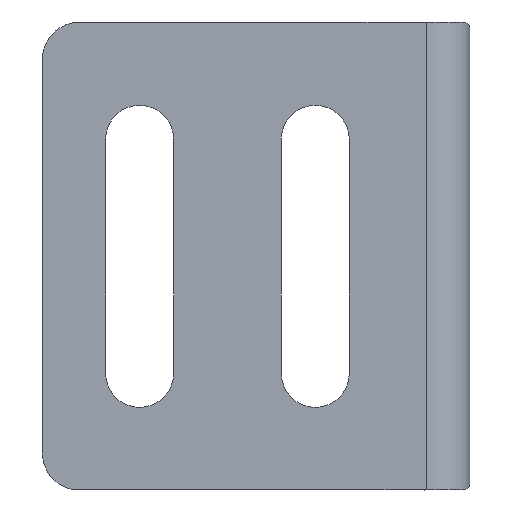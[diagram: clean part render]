
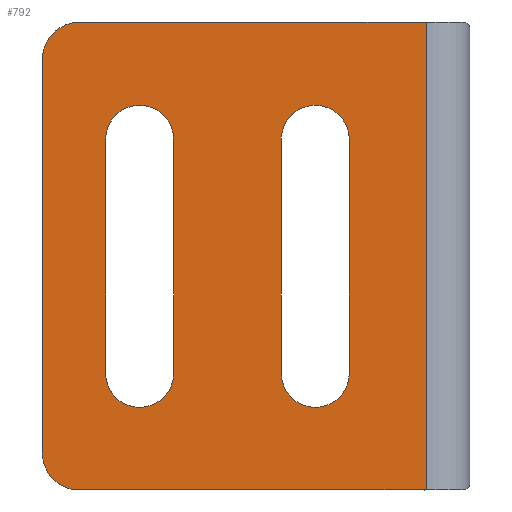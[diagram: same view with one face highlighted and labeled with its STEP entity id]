
A CAD part, front view. The second image highlights one B-rep face of the part: STEP entity #792.
In plain terms, the highlighted planar face has unit normal (0, -1, 0).
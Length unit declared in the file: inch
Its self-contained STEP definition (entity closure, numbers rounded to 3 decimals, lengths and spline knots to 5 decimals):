
#18 = VERTEX_POINT ( 'NONE', #842 ) ;
#20 = EDGE_CURVE ( 'NONE', #18, #735, #868, .T. ) ;
#25 = VERTEX_POINT ( 'NONE', #692 ) ;
#29 = EDGE_CURVE ( 'NONE', #736, #562, #691, .T. ) ;
#36 = VERTEX_POINT ( 'NONE', #687 ) ;
#44 = EDGE_CURVE ( 'NONE', #644, #736, #681, .T. ) ;
#49 = VERTEX_POINT ( 'NONE', #1284 ) ;
#55 = EDGE_CURVE ( 'NONE', #735, #49, #1198, .T. ) ;
#60 = VERTEX_POINT ( 'NONE', #1189 ) ;
#96 = CARTESIAN_POINT ( 'NONE',  ( 2.93886, -1.05, 1.12392 ) ) ;
#101 = CARTESIAN_POINT ( 'NONE',  ( 2.72086, -1.05, 1.12392 ) ) ;
#364 = DIRECTION ( 'NONE',  ( -1., 0., 0. ) ) ;
#365 = DIRECTION ( 'NONE',  ( 0., -1., 0. ) ) ;
#366 = CARTESIAN_POINT ( 'NONE',  ( 2.82986, -1.05, 1.12392 ) ) ;
#367 = AXIS2_PLACEMENT_3D ( 'NONE', #366, #365, #364 ) ;
#368 = CIRCLE ( 'NONE', #367, 0.109 ) ;
#395 = CARTESIAN_POINT ( 'NONE',  ( 2.72086, -1.05, 0.37392 ) ) ;
#396 = DIRECTION ( 'NONE',  ( 0., 0., -1. ) ) ;
#397 = VECTOR ( 'NONE', #396, 39.37008 ) ;
#398 = CARTESIAN_POINT ( 'NONE',  ( 2.72086, -1.05, 1.5 ) ) ;
#399 = LINE ( 'NONE', #398, #397 ) ;
#451 = CARTESIAN_POINT ( 'NONE',  ( 2.05879, -1.05, 0. ) ) ;
#452 = DIRECTION ( 'NONE',  ( -1., 0., 0. ) ) ;
#453 = VECTOR ( 'NONE', #452, 39.37008 ) ;
#454 = CARTESIAN_POINT ( 'NONE',  ( 3.18486, -1.05, 0. ) ) ;
#455 = LINE ( 'NONE', #454, #453 ) ;
#456 = DIRECTION ( 'NONE',  ( 0., 0., -1. ) ) ;
#457 = VECTOR ( 'NONE', #456, 39.37008 ) ;
#458 = CARTESIAN_POINT ( 'NONE',  ( 3.18486, -1.05, 1.5 ) ) ;
#459 = LINE ( 'NONE', #458, #457 ) ;
#479 = DIRECTION ( 'NONE',  ( 1., 0., 0. ) ) ;
#480 = VECTOR ( 'NONE', #479, 39.37008 ) ;
#481 = CARTESIAN_POINT ( 'NONE',  ( 3.18486, -1.05, 1.5 ) ) ;
#487 = LINE ( 'NONE', #481, #480 ) ;
#558 = VERTEX_POINT ( 'NONE', #101 ) ;
#562 = VERTEX_POINT ( 'NONE', #96 ) ;
#638 = EDGE_CURVE ( 'NONE', #562, #558, #368, .T. ) ;
#643 = EDGE_CURVE ( 'NONE', #558, #644, #399, .T. ) ;
#644 = VERTEX_POINT ( 'NONE', #395 ) ;
#669 = EDGE_CURVE ( 'NONE', #806, #60, #459, .T. ) ;
#677 = DIRECTION ( 'NONE',  ( -1., 0., 0. ) ) ;
#678 = DIRECTION ( 'NONE',  ( 0., -1., 0. ) ) ;
#679 = CARTESIAN_POINT ( 'NONE',  ( 2.82986, -1.05, 0.37392 ) ) ;
#680 = AXIS2_PLACEMENT_3D ( 'NONE', #679, #678, #677 ) ;
#681 = CIRCLE ( 'NONE', #680, 0.109 ) ;
#687 = CARTESIAN_POINT ( 'NONE',  ( 2.15786, -1.05, 1.12392 ) ) ;
#688 = DIRECTION ( 'NONE',  ( 0., 0., 1. ) ) ;
#689 = VECTOR ( 'NONE', #688, 39.37008 ) ;
#690 = CARTESIAN_POINT ( 'NONE',  ( 2.93886, -1.05, 1.5 ) ) ;
#691 = LINE ( 'NONE', #690, #689 ) ;
#692 = CARTESIAN_POINT ( 'NONE',  ( 2.07513, -1.05, 1.5 ) ) ;
#701 = DIRECTION ( 'NONE',  ( -1., 0., 0. ) ) ;
#702 = DIRECTION ( 'NONE',  ( 0., -1., 0. ) ) ;
#716 = EDGE_CURVE ( 'NONE', #60, #717, #455, .T. ) ;
#717 = VERTEX_POINT ( 'NONE', #451 ) ;
#724 = EDGE_CURVE ( 'NONE', #25, #806, #487, .T. ) ;
#735 = VERTEX_POINT ( 'NONE', #937 ) ;
#736 = VERTEX_POINT ( 'NONE', #936 ) ;
#741 = EDGE_CURVE ( 'NONE', #717, #742, #931, .T. ) ;
#742 = VERTEX_POINT ( 'NONE', #926 ) ;
#769 = EDGE_LOOP ( 'NONE', ( #772, #773, #774, #775 ) ) ;
#771 = VERTEX_POINT ( 'NONE', #969 ) ;
#772 = ORIENTED_EDGE ( 'NONE', *, *, #794, .F. ) ;
#773 = ORIENTED_EDGE ( 'NONE', *, *, #55, .F. ) ;
#774 = ORIENTED_EDGE ( 'NONE', *, *, #20, .F. ) ;
#775 = ORIENTED_EDGE ( 'NONE', *, *, #799, .F. ) ;
#776 = EDGE_LOOP ( 'NONE', ( #777, #778, #779, #780 ) ) ;
#777 = ORIENTED_EDGE ( 'NONE', *, *, #44, .F. ) ;
#778 = ORIENTED_EDGE ( 'NONE', *, *, #643, .F. ) ;
#779 = ORIENTED_EDGE ( 'NONE', *, *, #638, .F. ) ;
#780 = ORIENTED_EDGE ( 'NONE', *, *, #29, .F. ) ;
#782 = ORIENTED_EDGE ( 'NONE', *, *, #785, .F. ) ;
#783 = ORIENTED_EDGE ( 'NONE', *, *, #741, .F. ) ;
#784 = ORIENTED_EDGE ( 'NONE', *, *, #716, .F. ) ;
#785 = EDGE_CURVE ( 'NONE', #742, #771, #967, .T. ) ;
#789 = EDGE_CURVE ( 'NONE', #771, #25, #944, .T. ) ;
#792 = ADVANCED_FACE ( 'NONE', ( #989, #988, #987 ), #1027, .F. ) ;
#793 = EDGE_LOOP ( 'NONE', ( #782, #783, #784, #838, #839, #840 ) ) ;
#794 = EDGE_CURVE ( 'NONE', #49, #36, #1021, .T. ) ;
#799 = EDGE_CURVE ( 'NONE', #36, #18, #1048, .T. ) ;
#806 = VERTEX_POINT ( 'NONE', #1073 ) ;
#838 = ORIENTED_EDGE ( 'NONE', *, *, #669, .F. ) ;
#839 = ORIENTED_EDGE ( 'NONE', *, *, #724, .F. ) ;
#840 = ORIENTED_EDGE ( 'NONE', *, *, #789, .F. ) ;
#842 = CARTESIAN_POINT ( 'NONE',  ( 2.15786, -1.05, 0.37392 ) ) ;
#866 = CARTESIAN_POINT ( 'NONE',  ( 2.26686, -1.05, 0.37392 ) ) ;
#867 = AXIS2_PLACEMENT_3D ( 'NONE', #866, #702, #701 ) ;
#868 = CIRCLE ( 'NONE', #867, 0.109 ) ;
#926 = CARTESIAN_POINT ( 'NONE',  ( 1.95486, -1.05, 0.11892 ) ) ;
#927 = DIRECTION ( 'NONE',  ( -1., 0., 0. ) ) ;
#928 = DIRECTION ( 'NONE',  ( 0., 1., 0. ) ) ;
#929 = CARTESIAN_POINT ( 'NONE',  ( 2.07486, -1.05, 0.11892 ) ) ;
#930 = AXIS2_PLACEMENT_3D ( 'NONE', #929, #928, #927 ) ;
#931 = CIRCLE ( 'NONE', #930, 0.12 ) ;
#936 = CARTESIAN_POINT ( 'NONE',  ( 2.93886, -1.05, 0.37392 ) ) ;
#937 = CARTESIAN_POINT ( 'NONE',  ( 2.37586, -1.05, 0.37392 ) ) ;
#944 = CIRCLE ( 'NONE', #993, 0.12108 ) ;
#964 = DIRECTION ( 'NONE',  ( 0., 0., 1. ) ) ;
#965 = VECTOR ( 'NONE', #964, 39.37008 ) ;
#966 = CARTESIAN_POINT ( 'NONE',  ( 1.95486, -1.05, 1.5 ) ) ;
#967 = LINE ( 'NONE', #966, #965 ) ;
#969 = CARTESIAN_POINT ( 'NONE',  ( 1.95486, -1.05, 1.37892 ) ) ;
#987 = FACE_BOUND ( 'NONE', #776, .T. ) ;
#988 = FACE_BOUND ( 'NONE', #769, .T. ) ;
#989 = FACE_OUTER_BOUND ( 'NONE', #793, .T. ) ;
#990 = DIRECTION ( 'NONE',  ( -1., 0., 0. ) ) ;
#991 = DIRECTION ( 'NONE',  ( 0., 1., 0. ) ) ;
#992 = CARTESIAN_POINT ( 'NONE',  ( 2.07594, -1.05, 1.37892 ) ) ;
#993 = AXIS2_PLACEMENT_3D ( 'NONE', #992, #991, #990 ) ;
#1017 = DIRECTION ( 'NONE',  ( -1., 0., 0. ) ) ;
#1018 = DIRECTION ( 'NONE',  ( 0., -1., 0. ) ) ;
#1019 = CARTESIAN_POINT ( 'NONE',  ( 2.26686, -1.05, 1.12392 ) ) ;
#1020 = AXIS2_PLACEMENT_3D ( 'NONE', #1019, #1018, #1017 ) ;
#1021 = CIRCLE ( 'NONE', #1020, 0.109 ) ;
#1023 = DIRECTION ( 'NONE',  ( 0., 0., 1. ) ) ;
#1024 = DIRECTION ( 'NONE',  ( 0., 1., 0. ) ) ;
#1025 = CARTESIAN_POINT ( 'NONE',  ( 3.18486, -1.05, 1.5 ) ) ;
#1026 = AXIS2_PLACEMENT_3D ( 'NONE', #1025, #1024, #1023 ) ;
#1027 = PLANE ( 'NONE',  #1026 ) ;
#1045 = DIRECTION ( 'NONE',  ( 0., 0., -1. ) ) ;
#1046 = VECTOR ( 'NONE', #1045, 39.37008 ) ;
#1047 = CARTESIAN_POINT ( 'NONE',  ( 2.15786, -1.05, 1.5 ) ) ;
#1048 = LINE ( 'NONE', #1047, #1046 ) ;
#1073 = CARTESIAN_POINT ( 'NONE',  ( 3.18486, -1.05, 1.5 ) ) ;
#1189 = CARTESIAN_POINT ( 'NONE',  ( 3.18486, -1.05, 0. ) ) ;
#1195 = DIRECTION ( 'NONE',  ( 0., 0., 1. ) ) ;
#1196 = VECTOR ( 'NONE', #1195, 39.37008 ) ;
#1197 = CARTESIAN_POINT ( 'NONE',  ( 2.37586, -1.05, 1.5 ) ) ;
#1198 = LINE ( 'NONE', #1197, #1196 ) ;
#1284 = CARTESIAN_POINT ( 'NONE',  ( 2.37586, -1.05, 1.12392 ) ) ;
